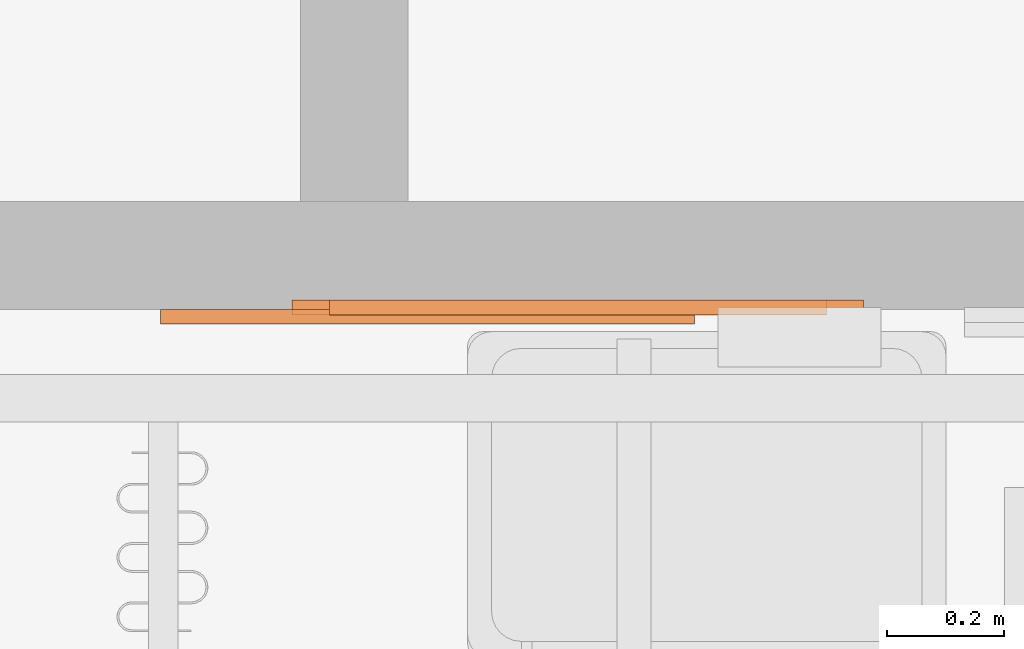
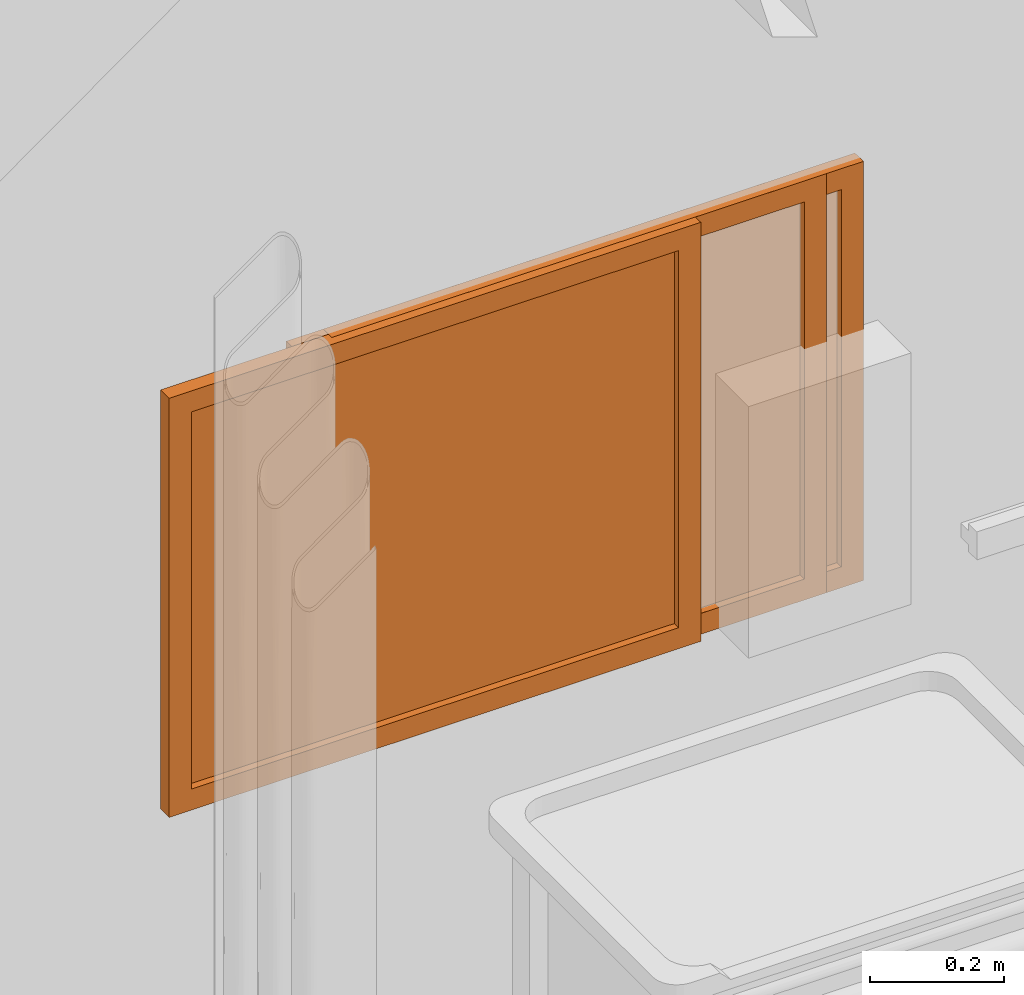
# One storey, part 38 of 142: 4 proxies.
"""IFC2X3 building model written with IfcOpenShell, lengths in feet."""

from ifc_helpers import new_model, entity, si_unit, converted_unit, derived_unit, direction, frame, origin, origin_2d_with_axis, place, context, subcontext, project, spatial, polyline, rectangle, outline, extrude, source, transform, mapped, type_object, type_shapes, element, save


model = new_model("IFC2X3")

# Units and contexts
model_context = context("Model", 3, precision=0.0001, world=origin(), true_north=direction((6.12303176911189e-17, 1.0)))
body_context = subcontext(model_context, "Body", "Model", "MODEL_VIEW")
ifc_project = project(units=[converted_unit("LENGTHUNIT", "FOOT", entity("IfcRatioMeasure", 0.3048), si_unit("LENGTHUNIT", "METRE"), dimensions=[1, 0, 0, 0, 0, 0, 0]), converted_unit("AREAUNIT", "SQUARE FOOT", entity("IfcRatioMeasure", 0.09290304), si_unit("AREAUNIT", "SQUARE_METRE"), dimensions=[2, 0, 0, 0, 0, 0, 0]), converted_unit("VOLUMEUNIT", "CUBIC FOOT", entity("IfcRatioMeasure", 0.028316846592), si_unit("VOLUMEUNIT", "CUBIC_METRE"), dimensions=[3, 0, 0, 0, 0, 0, 0]), converted_unit("PLANEANGLEUNIT", "DEGREE", entity("IfcRatioMeasure", 0.0174532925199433), si_unit("PLANEANGLEUNIT", "RADIAN"), dimensions=[0, 0, 0, 0, 0, 0, 0]), si_unit("MASSUNIT", "GRAM", prefix="KILO"), derived_unit("MASSDENSITYUNIT", [(si_unit("MASSUNIT", "GRAM", prefix="KILO"), 1), (si_unit("LENGTHUNIT", "METRE"), -3)]), si_unit("TIMEUNIT", "SECOND"), si_unit("FREQUENCYUNIT", "HERTZ"), si_unit("THERMODYNAMICTEMPERATUREUNIT", "DEGREE_CELSIUS"), derived_unit("THERMALTRANSMITTANCEUNIT", [(si_unit("MASSUNIT", "GRAM", prefix="KILO"), 1), (si_unit("THERMODYNAMICTEMPERATUREUNIT", "KELVIN"), -1), (si_unit("TIMEUNIT", "SECOND"), -3)]), derived_unit("VOLUMETRICFLOWRATEUNIT", [(si_unit("LENGTHUNIT", "METRE"), 3), (si_unit("TIMEUNIT", "SECOND"), -1)]), si_unit("ELECTRICCURRENTUNIT", "AMPERE"), si_unit("ELECTRICVOLTAGEUNIT", "VOLT"), si_unit("POWERUNIT", "WATT"), si_unit("FORCEUNIT", "NEWTON"), si_unit("ILLUMINANCEUNIT", "LUX"), si_unit("LUMINOUSFLUXUNIT", "LUMEN"), si_unit("LUMINOUSINTENSITYUNIT", "CANDELA"), derived_unit("USERDEFINED", [(si_unit("MASSUNIT", "GRAM", prefix="KILO"), -1), (si_unit("LENGTHUNIT", "METRE"), -2), (si_unit("TIMEUNIT", "SECOND"), 3), (si_unit("LUMINOUSFLUXUNIT", "LUMEN"), 1)]), derived_unit("LINEARVELOCITYUNIT", [(si_unit("LENGTHUNIT", "METRE"), 1), (si_unit("TIMEUNIT", "SECOND"), -1)]), si_unit("PRESSUREUNIT", "PASCAL"), derived_unit("USERDEFINED", [(si_unit("LENGTHUNIT", "METRE"), -2), (si_unit("MASSUNIT", "GRAM", prefix="KILO"), 1), (si_unit("TIMEUNIT", "SECOND"), -2)])], contexts=[model_context])

# Site, building, storey
site_placement = place(None, origin())
site = spatial("IfcSite", under=ifc_project, at=site_placement, Name="Default", CompositionType="ELEMENT")
building_placement = place(site_placement, origin())
building = spatial("IfcBuilding", under=site, at=building_placement, Name="OUTPATIENT / PACT CLINIC (Ch. 265)", CompositionType="ELEMENT")
storey_placement = place(building_placement, origin())
storey = spatial("IfcBuildingStorey", under=building, at=storey_placement, Name="LEVEL 1", CompositionType="ELEMENT", Elevation=0.0)

# Proxies
building_element_proxy_type_1 = type_object("IfcBuildingElementProxyType", Name="F3025 - Board, Bulletin, Wood Framed", PredefinedType="NOTDEFINED")
shared_shape_1 = source(origin(), body_context, "Body", "SweptSolid", [
    extrude(rectangle(XDim=0.0416666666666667, YDim=2.74999999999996, at=origin_2d_with_axis()), frame((0.0, -0.020833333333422, 0.124999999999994), z_axis=(0.0, 0.0, 1.0), x_axis=(0.0, 1.0, 0.0)), (0.0, 0.0, 1.0), 2.25000000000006),
    extrude(outline(polyline([(-1.49999999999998, -1.25), (1.49999999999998, -1.25), (1.49999999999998, 1.25), (-1.49999999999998, 1.25), (-1.49999999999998, -1.25)]), holes=[polyline([(-1.37499999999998, -1.125), (-1.37499999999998, 1.12500000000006), (1.37499999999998, 1.12500000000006), (1.37499999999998, -1.125), (-1.37499999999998, -1.125)])]), frame((0.0, -0.0833333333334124, 1.25), z_axis=(0.0, 1.0, 0.0), x_axis=(-1.0, 0.0, 0.0)), (0.0, 0.0, 1.0), 0.0833333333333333),
])
type_shapes(building_element_proxy_type_1, [shared_shape_1])
for number, where, name in (
    (1, (441.213042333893, -910.785091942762, 4.0), "F3025 - Board, Bulletin, Wood Framed:F3025 - Board, Bulletin, Wood Framed"),
    (2, (441.004568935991, -910.784961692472, 4.0), "F3025 - Board, Bulletin, Wood Framed:F3025 - Board, Bulletin, Wood Framed"),
    (3, (441.004568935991, -910.785201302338, 4.0), "F3025 - Board, Bulletin, Wood Framed:F3025 - Board, Bulletin, Wood Framed"),
):
    element("IfcBuildingElementProxy", number, at=place(storey_placement, frame(where)), inside=storey, type_object=building_element_proxy_type_1, Name=name, ObjectType="F3025 - Board, Bulletin, Wood Framed", context=body_context, shape_type="MappedRepresentation", body=[
        mapped(shared_shape_1, transform((0.0, 0.0, 0.0), scale=1.0)),
    ])

# Space
space_placement = place(storey_placement, origin())
space = spatial("IfcSpace", under=storey, at=space_placement, Name="EXPA1", CompositionType="ELEMENT", InteriorOrExteriorSpace="INTERNAL")

# Proxy
building_element_proxy_type_2 = type_object("IfcBuildingElementProxyType", Name="F3025 - Board, Bulletin, Wood Framed", PredefinedType="NOTDEFINED")
shared_shape_2 = source(origin(), body_context, "Body", "SweptSolid", [
    extrude(rectangle(XDim=0.0416666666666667, YDim=2.74999999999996, at=origin_2d_with_axis()), frame((0.0, -0.020833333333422, 0.124999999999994), z_axis=(0.0, 0.0, 1.0), x_axis=(0.0, 1.0, 0.0)), (0.0, 0.0, 1.0), 2.25000000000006),
    extrude(outline(polyline([(-1.49999999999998, -1.25), (1.49999999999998, -1.25), (1.49999999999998, 1.25), (-1.49999999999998, 1.25), (-1.49999999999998, -1.25)]), holes=[polyline([(-1.37499999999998, -1.125), (-1.37499999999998, 1.12500000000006), (1.37499999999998, 1.12500000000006), (1.37499999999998, -1.125), (-1.37499999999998, -1.125)])]), frame((0.0, -0.0833333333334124, 1.25), z_axis=(0.0, 1.0, 0.0), x_axis=(-1.0, 0.0, 0.0)), (0.0, 0.0, 1.0), 0.0833333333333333),
])
type_shapes(building_element_proxy_type_2, [shared_shape_2])
proxy_placement = place(space_placement, frame((440.265393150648, -910.837175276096, 4.0)))
element("IfcBuildingElementProxy", 4, at=proxy_placement, inside=space, type_object=building_element_proxy_type_2, Name="F3025 - Board, Bulletin, Wood Framed1:F3025 - Board, Bulletin, Wood Framed", ObjectType="F3025 - Board, Bulletin, Wood Framed", context=body_context, shape_type="MappedRepresentation", body=[
    mapped(shared_shape_2, transform((0.0, 0.0, 0.0), scale=1.0)),
])

save(model, "model.ifc")
